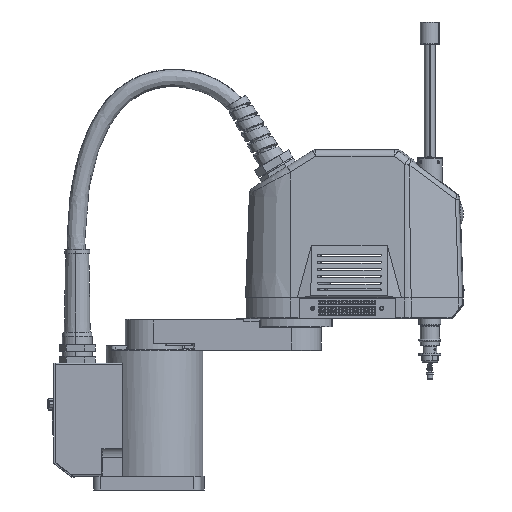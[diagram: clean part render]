
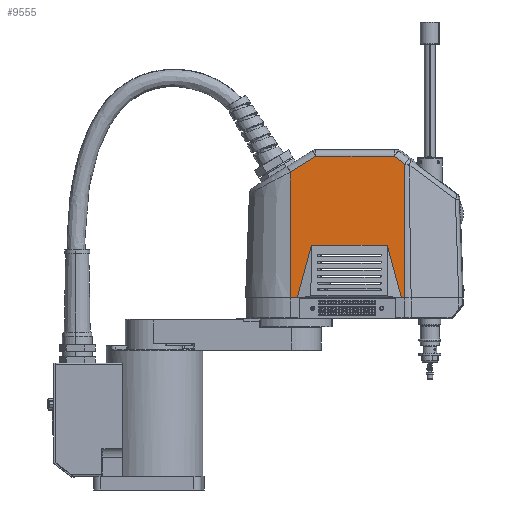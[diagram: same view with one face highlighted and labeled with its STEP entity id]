
A CAD part, front view. The second image highlights one B-rep face of the part: STEP entity #9555.
In plain terms, the highlighted planar face has unit normal (-0.038, -0.999, 0.035) as drawn and (0, 0.999, -0.035) by its records, which use the part's own axes.
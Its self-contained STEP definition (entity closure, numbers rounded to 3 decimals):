
#1977 = LINE ( 'NONE', #51168, #52484 ) ;
#3776 = CARTESIAN_POINT ( 'NONE',  ( 52., -3.585, -102.574 ) ) ;
#4750 = DIRECTION ( 'NONE',  ( 0., 0.035, 0.999 ) ) ;
#5564 = DIRECTION ( 'NONE',  ( -0.262, 0.034, 0.965 ) ) ;
#8690 = EDGE_CURVE ( 'NONE', #110801, #83089, #53231, .T. ) ;
#8794 = EDGE_CURVE ( 'NONE', #93832, #58690, #74010, .T. ) ;
#9448 = EDGE_CURVE ( 'NONE', #65978, #110801, #97292, .T. ) ;
#9555 = ADVANCED_FACE ( 'NONE', ( #13769 ), #14877, .T. ) ;
#10755 = ORIENTED_EDGE ( 'NONE', *, *, #55720, .F. ) ;
#11074 = AXIS2_PLACEMENT_3D ( 'NONE', #58903, #108521, #4750 ) ;
#13769 = FACE_OUTER_BOUND ( 'NONE', #80445, .T. ) ;
#14269 = VERTEX_POINT ( 'NONE', #47213 ) ;
#14389 = DIRECTION ( 'NONE',  ( -1., 0., 0. ) ) ;
#14877 = PLANE ( 'NONE',  #11074 ) ;
#16151 = VECTOR ( 'NONE', #22658, 1000. ) ;
#18658 = VERTEX_POINT ( 'NONE', #68383 ) ;
#18966 = VECTOR ( 'NONE', #47285, 1000. ) ;
#20670 = VERTEX_POINT ( 'NONE', #85811 ) ;
#20697 = ORIENTED_EDGE ( 'NONE', *, *, #8690, .F. ) ;
#20938 = CARTESIAN_POINT ( 'NONE',  ( 35., 0., 0.1 ) ) ;
#22030 = VECTOR ( 'NONE', #45491, 1000. ) ;
#22658 = DIRECTION ( 'NONE',  ( -1., 0., 0. ) ) ;
#23071 = CARTESIAN_POINT ( 'NONE',  ( 45.328, -0.685, -19.525 ) ) ;
#23347 = CARTESIAN_POINT ( 'NONE',  ( 35., -0.003, 0. ) ) ;
#34882 = VERTEX_POINT ( 'NONE', #70620 ) ;
#36240 = ORIENTED_EDGE ( 'NONE', *, *, #48137, .F. ) ;
#39074 = CARTESIAN_POINT ( 'NONE',  ( 0., -0.003, 0. ) ) ;
#40402 = CARTESIAN_POINT ( 'NONE',  ( 117.699, -1.329, -37.946 ) ) ;
#45491 = DIRECTION ( 'NONE',  ( -1., 0., 0. ) ) ;
#47213 = CARTESIAN_POINT ( 'NONE',  ( 117.699, -3.39, -96.963 ) ) ;
#47285 = DIRECTION ( 'NONE',  ( -1., 0., 0. ) ) ;
#48137 = EDGE_CURVE ( 'NONE', #14269, #65978, #54845, .T. ) ;
#48331 = LINE ( 'NONE', #40402, #72092 ) ;
#50568 = EDGE_CURVE ( 'NONE', #34882, #58690, #98196, .T. ) ;
#51168 = CARTESIAN_POINT ( 'NONE',  ( 37.545, -3.244, -92.808 ) ) ;
#51303 = EDGE_CURVE ( 'NONE', #18658, #93832, #82913, .T. ) ;
#52484 = VECTOR ( 'NONE', #103499, 1000. ) ;
#53231 = LINE ( 'NONE', #70680, #91897 ) ;
#53967 = VECTOR ( 'NONE', #105982, 1000. ) ;
#54018 = CARTESIAN_POINT ( 'NONE',  ( 110.316, -3.585, -102.574 ) ) ;
#54845 = LINE ( 'NONE', #55405, #68860 ) ;
#55405 = CARTESIAN_POINT ( 'NONE',  ( 117.699, 0., 0.1 ) ) ;
#55720 = EDGE_CURVE ( 'NONE', #83089, #18658, #48331, .T. ) ;
#55911 = ORIENTED_EDGE ( 'NONE', *, *, #97778, .T. ) ;
#58690 = VERTEX_POINT ( 'NONE', #23347 ) ;
#58903 = CARTESIAN_POINT ( 'NONE',  ( 117.699, 0., 0.1 ) ) ;
#59613 = ORIENTED_EDGE ( 'NONE', *, *, #105988, .T. ) ;
#60303 = VECTOR ( 'NONE', #104969, 1000. ) ;
#62663 = CARTESIAN_POINT ( 'NONE',  ( 105.369, -1.329, -37.946 ) ) ;
#62816 = ORIENTED_EDGE ( 'NONE', *, *, #8794, .F. ) ;
#62881 = ORIENTED_EDGE ( 'NONE', *, *, #50568, .T. ) ;
#64179 = LINE ( 'NONE', #3776, #18966 ) ;
#65978 = VERTEX_POINT ( 'NONE', #84744 ) ;
#66290 = CARTESIAN_POINT ( 'NONE',  ( 115.672, -0.003, 0. ) ) ;
#68383 = CARTESIAN_POINT ( 'NONE',  ( 50.33, -1.329, -37.946 ) ) ;
#68860 = VECTOR ( 'NONE', #72875, 1000. ) ;
#69523 = VERTEX_POINT ( 'NONE', #54018 ) ;
#70620 = CARTESIAN_POINT ( 'NONE',  ( 35., -3.19, -91.242 ) ) ;
#70680 = CARTESIAN_POINT ( 'NONE',  ( 115.836, 0.018, 0.605 ) ) ;
#71101 = LINE ( 'NONE', #97553, #53967 ) ;
#72092 = VECTOR ( 'NONE', #14389, 1000. ) ;
#72875 = DIRECTION ( 'NONE',  ( 0., 0.035, 0.999 ) ) ;
#74010 = LINE ( 'NONE', #39074, #16151 ) ;
#75832 = ORIENTED_EDGE ( 'NONE', *, *, #51303, .F. ) ;
#76508 = DIRECTION ( 'NONE',  ( -0.262, -0.034, -0.965 ) ) ;
#80445 = EDGE_LOOP ( 'NONE', ( #75832, #10755, #20697, #105561, #36240, #55911, #102927, #59613, #62881, #62816 ) ) ;
#82604 = EDGE_CURVE ( 'NONE', #69523, #20670, #64179, .T. ) ;
#82913 = LINE ( 'NONE', #23071, #105344 ) ;
#83089 = VERTEX_POINT ( 'NONE', #62663 ) ;
#84744 = CARTESIAN_POINT ( 'NONE',  ( 117.699, -0.003, 0. ) ) ;
#85811 = CARTESIAN_POINT ( 'NONE',  ( 53.415, -3.585, -102.574 ) ) ;
#91897 = VECTOR ( 'NONE', #76508, 1000. ) ;
#93832 = VERTEX_POINT ( 'NONE', #96845 ) ;
#96845 = CARTESIAN_POINT ( 'NONE',  ( 40.027, -0.003, 0. ) ) ;
#97292 = LINE ( 'NONE', #98938, #22030 ) ;
#97553 = CARTESIAN_POINT ( 'NONE',  ( 109.056, -3.619, -103.532 ) ) ;
#97778 = EDGE_CURVE ( 'NONE', #14269, #69523, #71101, .T. ) ;
#98196 = LINE ( 'NONE', #20938, #60303 ) ;
#98938 = CARTESIAN_POINT ( 'NONE',  ( 0., -0.003, 0. ) ) ;
#102927 = ORIENTED_EDGE ( 'NONE', *, *, #82604, .T. ) ;
#103499 = DIRECTION ( 'NONE',  ( -0.852, 0.018, 0.524 ) ) ;
#104969 = DIRECTION ( 'NONE',  ( 0., 0.035, 0.999 ) ) ;
#105344 = VECTOR ( 'NONE', #5564, 1000. ) ;
#105561 = ORIENTED_EDGE ( 'NONE', *, *, #9448, .F. ) ;
#105982 = DIRECTION ( 'NONE',  ( -0.796, -0.021, -0.605 ) ) ;
#105988 = EDGE_CURVE ( 'NONE', #20670, #34882, #1977, .T. ) ;
#108521 = DIRECTION ( 'NONE',  ( 0., 0.999, -0.035 ) ) ;
#110801 = VERTEX_POINT ( 'NONE', #66290 ) ;
